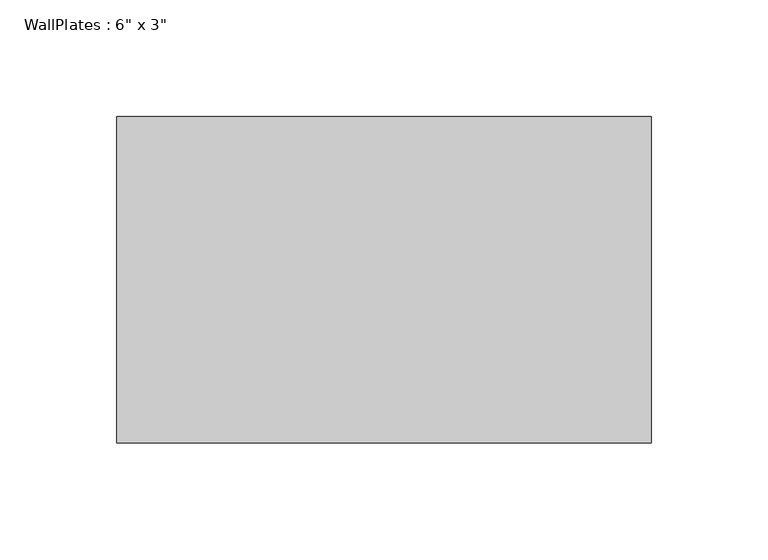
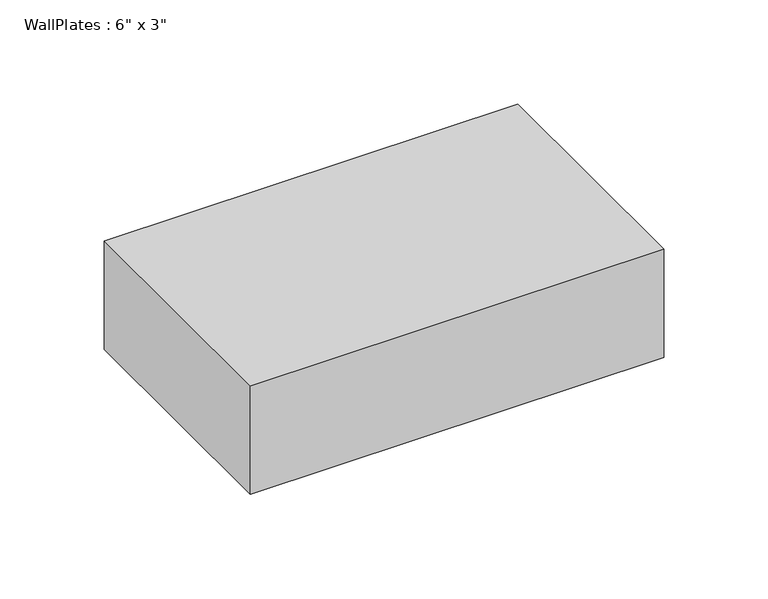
"""IFC4 building model written with IfcOpenShell, lengths in millimetres: beam geometry."""

from ifc_helpers import new_model, si_unit, frame, origin, place, context, project, spatial, polyline, outline, extrude, source, transform, mapped, element, save


def beam_cc9ad65c(model_context):
    return source(origin(), model_context, "Body", "SweptSolid", [
        extrude(outline(polyline([(-114.305, -69.85), (-114.305, 69.85), (114.305, 69.85), (114.305, -69.85), (-114.305, -69.85)])), frame((0.0, 0.0, -31.75), z_axis=(0.0, 0.0, 1.0), x_axis=(1.0, 0.0, 0.0)), (0.0, 0.0, 1.0), 63.5),
    ])


if __name__ == "__main__":
    model = new_model("IFC4")
    model_context = context("Model", 3, world=origin())
    ifc_project = project(units=[si_unit("LENGTHUNIT", "METRE", prefix="MILLI")], contexts=[model_context])
    site = spatial("IfcSite", under=ifc_project)
    building = spatial("IfcBuilding", under=site)
    placement = place(None, origin())
    beam_shape = beam_cc9ad65c(model_context)
    element("IfcBeam", 1, ObjectType="WallPlates : 6\" x 3\"", at=placement, inside=building, context=model_context, shape_type="MappedRepresentation", body=[
        mapped(beam_shape, transform((0.0, 0.0, 0.0), x_axis=(1.0, 0.0, 0.0), y_axis=(0.0, 1.0, 0.0), z_axis=(0.0, 0.0, 1.0))),
    ])
    save(model, "model.ifc")
